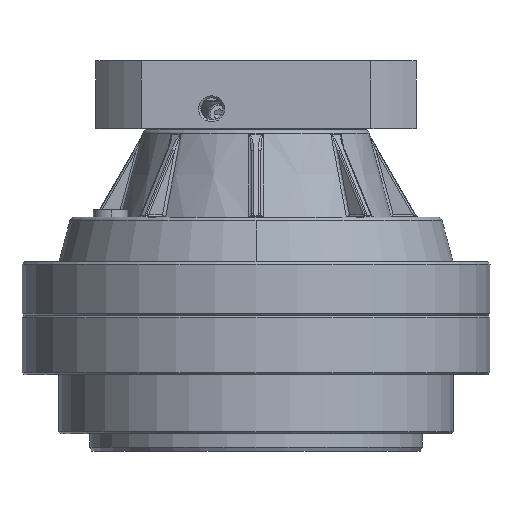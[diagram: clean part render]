
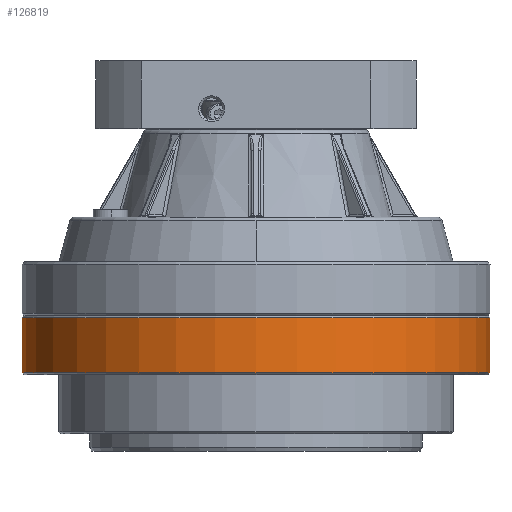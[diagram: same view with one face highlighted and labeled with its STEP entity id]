
A CAD part, front view. The second image highlights one B-rep face of the part: STEP entity #126819.
In plain terms, the highlighted cylindrical face has radius 95 mm (diameter 190 mm), a partial arc.
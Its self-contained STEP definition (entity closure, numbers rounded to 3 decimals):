
#909 = EDGE_CURVE ( 'NONE', #113837, #114252, #97228, .T. ) ;
#13287 = DIRECTION ( 'NONE',  ( -1., 0., 0. ) ) ;
#15095 = DIRECTION ( 'NONE',  ( 0., 0., 1. ) ) ;
#18207 = CARTESIAN_POINT ( 'NONE',  ( 95., 0., 0.8 ) ) ;
#23743 = CARTESIAN_POINT ( 'NONE',  ( 0., 0., 0.8 ) ) ;
#26481 = EDGE_CURVE ( 'NONE', #114252, #89774, #90705, .T. ) ;
#26620 = CARTESIAN_POINT ( 'NONE',  ( 0., 0., 0. ) ) ;
#27731 = CARTESIAN_POINT ( 'NONE',  ( 95., 0., 23.2 ) ) ;
#32413 = EDGE_CURVE ( 'NONE', #113837, #109011, #121961, .T. ) ;
#37963 = CARTESIAN_POINT ( 'NONE',  ( 95., 0., 0. ) ) ;
#40106 = VECTOR ( 'NONE', #110898, 1000. ) ;
#42488 = ORIENTED_EDGE ( 'NONE', *, *, #106628, .F. ) ;
#42752 = ORIENTED_EDGE ( 'NONE', *, *, #26481, .F. ) ;
#46760 = ORIENTED_EDGE ( 'NONE', *, *, #32413, .T. ) ;
#48799 = DIRECTION ( 'NONE',  ( -1., 0., 0. ) ) ;
#49300 = AXIS2_PLACEMENT_3D ( 'NONE', #59055, #68712, #59734 ) ;
#55182 = AXIS2_PLACEMENT_3D ( 'NONE', #23743, #66097, #13287 ) ;
#59055 = CARTESIAN_POINT ( 'NONE',  ( 0., 0., 23.2 ) ) ;
#59734 = DIRECTION ( 'NONE',  ( -1., 0., 0. ) ) ;
#65314 = CARTESIAN_POINT ( 'NONE',  ( -95., 0., 23.2 ) ) ;
#66097 = DIRECTION ( 'NONE',  ( 0., 0., -1. ) ) ;
#68480 = CARTESIAN_POINT ( 'NONE',  ( -95., 0., 0. ) ) ;
#68712 = DIRECTION ( 'NONE',  ( 0., 0., 1. ) ) ;
#68961 = DIRECTION ( 'NONE',  ( 0., 0., 1. ) ) ;
#73249 = EDGE_LOOP ( 'NONE', ( #42752, #130455, #46760, #42488 ) ) ;
#79349 = FACE_OUTER_BOUND ( 'NONE', #73249, .T. ) ;
#89774 = VERTEX_POINT ( 'NONE', #27731 ) ;
#90705 = LINE ( 'NONE', #37963, #102856 ) ;
#97228 = CIRCLE ( 'NONE', #55182, 95. ) ;
#101164 = AXIS2_PLACEMENT_3D ( 'NONE', #26620, #68961, #48799 ) ;
#102856 = VECTOR ( 'NONE', #15095, 1000. ) ;
#106628 = EDGE_CURVE ( 'NONE', #89774, #109011, #118114, .T. ) ;
#109011 = VERTEX_POINT ( 'NONE', #65314 ) ;
#110898 = DIRECTION ( 'NONE',  ( 0., 0., 1. ) ) ;
#113837 = VERTEX_POINT ( 'NONE', #117075 ) ;
#114252 = VERTEX_POINT ( 'NONE', #18207 ) ;
#117075 = CARTESIAN_POINT ( 'NONE',  ( -95., 0., 0.8 ) ) ;
#118114 = CIRCLE ( 'NONE', #49300, 95. ) ;
#121753 = CYLINDRICAL_SURFACE ( 'NONE', #101164, 95. ) ;
#121961 = LINE ( 'NONE', #68480, #40106 ) ;
#126819 = ADVANCED_FACE ( 'NONE', ( #79349 ), #121753, .T. ) ;
#130455 = ORIENTED_EDGE ( 'NONE', *, *, #909, .F. ) ;
